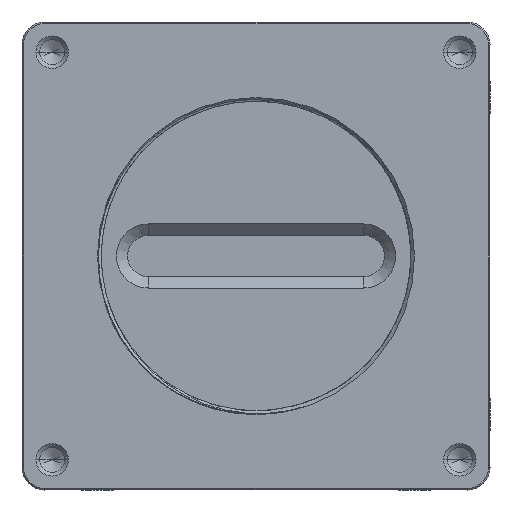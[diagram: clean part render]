
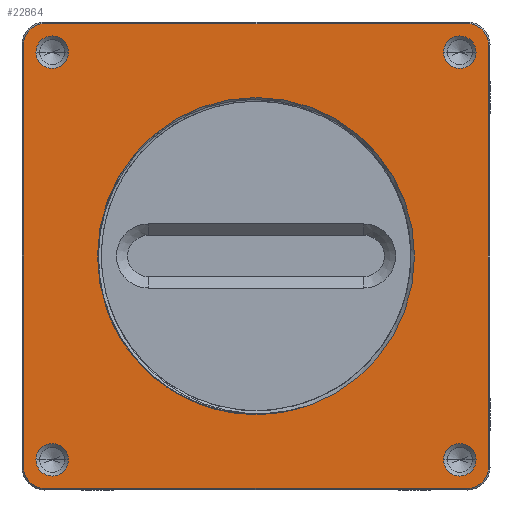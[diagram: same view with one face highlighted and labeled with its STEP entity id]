
A CAD part, front view. The second image highlights one B-rep face of the part: STEP entity #22864.
In plain terms, the highlighted planar face has unit normal (0, -1, 0).
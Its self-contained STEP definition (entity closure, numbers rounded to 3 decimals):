
#263=CARTESIAN_POINT('',(-28.,-35.,28.));
#264=DIRECTION('',(0.,1.,0.));
#265=DIRECTION('',(-1.,0.,0.));
#266=AXIS2_PLACEMENT_3D('',#263,#264,#265);
#271=DIRECTION('',(1.,0.,0.));
#272=VECTOR('',#271,56.);
#273=CARTESIAN_POINT('',(-28.,-35.,30.8));
#274=LINE('',#273,#272);
#278=CARTESIAN_POINT('',(28.,-35.,28.));
#279=DIRECTION('',(0.,1.,0.));
#280=DIRECTION('',(0.,0.,1.));
#281=AXIS2_PLACEMENT_3D('',#278,#279,#280);
#286=DIRECTION('',(0.,0.,-1.));
#287=VECTOR('',#286,56.);
#288=CARTESIAN_POINT('',(30.8,-35.,28.));
#289=LINE('',#288,#287);
#293=CARTESIAN_POINT('',(28.,-35.,-28.));
#294=DIRECTION('',(0.,1.,0.));
#295=DIRECTION('',(1.,0.,0.));
#296=AXIS2_PLACEMENT_3D('',#293,#294,#295);
#301=DIRECTION('',(-1.,0.,0.));
#302=VECTOR('',#301,56.);
#303=CARTESIAN_POINT('',(28.,-35.,-30.8));
#304=LINE('',#303,#302);
#308=CARTESIAN_POINT('',(-28.,-35.,-28.));
#309=DIRECTION('',(0.,1.,0.));
#310=DIRECTION('',(0.,0.,-1.));
#311=AXIS2_PLACEMENT_3D('',#308,#309,#310);
#316=DIRECTION('',(0.,0.,1.));
#317=VECTOR('',#316,56.);
#318=CARTESIAN_POINT('',(-30.8,-35.,
-28.));
#319=LINE('',#318,#317);
#323=CARTESIAN_POINT('',(-27.,-35.,27.));
#324=DIRECTION('',(0.,1.,0.));
#325=DIRECTION('',(-1.,0.,0.));
#326=AXIS2_PLACEMENT_3D('',#323,#324,#325);
#331=CARTESIAN_POINT('',(-27.,-35.,27.));
#332=DIRECTION('',(0.,1.,0.));
#333=DIRECTION('',(1.,0.,0.));
#334=AXIS2_PLACEMENT_3D('',#331,#332,#333);
#339=CARTESIAN_POINT('',(-27.,-35.,-27.));
#340=DIRECTION('',(0.,1.,0.));
#341=DIRECTION('',(1.,0.,0.));
#342=AXIS2_PLACEMENT_3D('',#339,#340,#341);
#347=CARTESIAN_POINT('',(-27.,-35.,-27.));
#348=DIRECTION('',(0.,1.,0.));
#349=DIRECTION('',(-1.,0.,0.));
#350=AXIS2_PLACEMENT_3D('',#347,#348,#349);
#355=CARTESIAN_POINT('',(27.,-35.,-27.));
#356=DIRECTION('',(0.,1.,0.));
#357=DIRECTION('',(1.,0.,0.));
#358=AXIS2_PLACEMENT_3D('',#355,#356,#357);
#363=CARTESIAN_POINT('',(27.,-35.,-27.));
#364=DIRECTION('',(0.,1.,0.));
#365=DIRECTION('',(-1.,0.,0.));
#366=AXIS2_PLACEMENT_3D('',#363,#364,#365);
#371=CARTESIAN_POINT('',(27.,-35.,27.));
#372=DIRECTION('',(0.,1.,0.));
#373=DIRECTION('',(1.,0.,0.));
#374=AXIS2_PLACEMENT_3D('',#371,#372,#373);
#379=CARTESIAN_POINT('',(27.,-35.,27.));
#380=DIRECTION('',(0.,1.,0.));
#381=DIRECTION('',(-1.,0.,0.));
#382=AXIS2_PLACEMENT_3D('',#379,#380,#381);
#387=CARTESIAN_POINT('',(0.,-35.,0.));
#388=DIRECTION('',(0.,1.,0.));
#389=DIRECTION('',(0.,0.,-1.));
#390=AXIS2_PLACEMENT_3D('',#387,#388,#389);
#395=CARTESIAN_POINT('',(0.,-35.,0.));
#396=DIRECTION('',(0.,1.,0.));
#397=DIRECTION('',(0.,0.,1.));
#398=AXIS2_PLACEMENT_3D('',#395,#396,#397);
#19769=CARTESIAN_POINT('',(-29.15,-35.,27.));
#19770=CARTESIAN_POINT('',(-24.85,-35.,27.));
#19771=VERTEX_POINT('',#19769);
#19772=VERTEX_POINT('',#19770);
#19777=CARTESIAN_POINT('',(-24.85,-35.,-27.));
#19778=CARTESIAN_POINT('',(-29.15,-35.,-27.));
#19779=VERTEX_POINT('',#19777);
#19780=VERTEX_POINT('',#19778);
#19785=CARTESIAN_POINT('',(29.15,-35.,-27.));
#19786=CARTESIAN_POINT('',(24.85,-35.,-27.));
#19787=VERTEX_POINT('',#19785);
#19788=VERTEX_POINT('',#19786);
#19793=CARTESIAN_POINT('',(29.15,-35.,27.));
#19794=CARTESIAN_POINT('',(24.85,-35.,27.));
#19795=VERTEX_POINT('',#19793);
#19796=VERTEX_POINT('',#19794);
#20096=CARTESIAN_POINT('',(0.,-35.,-21.));
#20097=CARTESIAN_POINT('',(0.,-35.,21.));
#20098=VERTEX_POINT('',#20096);
#20099=VERTEX_POINT('',#20097);
#20104=CARTESIAN_POINT('',(-30.8,-35.,28.));
#20105=CARTESIAN_POINT('',(-28.,-35.,30.8));
#20106=VERTEX_POINT('',#20104);
#20107=VERTEX_POINT('',#20105);
#20110=CARTESIAN_POINT('',(28.,-35.,
30.8));
#20111=VERTEX_POINT('',#20110);
#20114=CARTESIAN_POINT('',(30.8,-35.,28.));
#20115=VERTEX_POINT('',#20114);
#20118=CARTESIAN_POINT('',(30.8,-35.,
-28.));
#20119=VERTEX_POINT('',#20118);
#20122=CARTESIAN_POINT('',(28.,-35.,-30.8));
#20123=VERTEX_POINT('',#20122);
#20126=CARTESIAN_POINT('',(-28.,-35.,
-30.8));
#20127=VERTEX_POINT('',#20126);
#20130=CARTESIAN_POINT('',(-30.8,-35.,-28.));
#20131=VERTEX_POINT('',#20130);
#22814=CARTESIAN_POINT('',(31.,-35.,31.));
#22815=DIRECTION('',(0.,-1.,0.));
#22816=DIRECTION('',(0.,0.,-1.));
#22817=AXIS2_PLACEMENT_3D('',#22814,#22815,#22816);
#22818=PLANE('',#22817);
#22820=ORIENTED_EDGE('',*,*,#22819,.T.);
#22822=ORIENTED_EDGE('',*,*,#22821,.T.);
#22823=ORIENTED_EDGE('',*,*,#22800,.T.);
#22824=ORIENTED_EDGE('',*,*,#22650,.T.);
#22825=ORIENTED_EDGE('',*,*,#22673,.T.);
#22827=ORIENTED_EDGE('',*,*,#22826,.T.);
#22829=ORIENTED_EDGE('',*,*,#22828,.T.);
#22831=ORIENTED_EDGE('',*,*,#22830,.T.);
#22832=EDGE_LOOP('',(#22820,#22822,#22823,#22824,#22825,#22827,#22829,#22831));
#22833=FACE_OUTER_BOUND('',#22832,.F.);
#22835=ORIENTED_EDGE('',*,*,#22834,.F.);
#22837=ORIENTED_EDGE('',*,*,#22836,.F.);
#22838=EDGE_LOOP('',(#22835,#22837));
#22839=FACE_BOUND('',#22838,.F.);
#22841=ORIENTED_EDGE('',*,*,#22840,.F.);
#22843=ORIENTED_EDGE('',*,*,#22842,.F.);
#22844=EDGE_LOOP('',(#22841,#22843));
#22845=FACE_BOUND('',#22844,.F.);
#22847=ORIENTED_EDGE('',*,*,#22846,.F.);
#22849=ORIENTED_EDGE('',*,*,#22848,.F.);
#22850=EDGE_LOOP('',(#22847,#22849));
#22851=FACE_BOUND('',#22850,.F.);
#22853=ORIENTED_EDGE('',*,*,#22852,.F.);
#22855=ORIENTED_EDGE('',*,*,#22854,.F.);
#22856=EDGE_LOOP('',(#22853,#22855));
#22857=FACE_BOUND('',#22856,.F.);
#22859=ORIENTED_EDGE('',*,*,#22858,.F.);
#22861=ORIENTED_EDGE('',*,*,#22860,.F.);
#22862=EDGE_LOOP('',(#22859,#22861));
#22863=FACE_BOUND('',#22862,.F.);
#22864=ADVANCED_FACE('',(#22833,#22839,#22845,#22851,#22857,#22863),#22818,.T.);
#267=CIRCLE('',#266,2.8);
#282=CIRCLE('',#281,2.8);
#297=CIRCLE('',#296,2.8);
#312=CIRCLE('',#311,2.8);
#327=CIRCLE('',#326,2.15);
#335=CIRCLE('',#334,2.15);
#343=CIRCLE('',#342,2.15);
#351=CIRCLE('',#350,2.15);
#359=CIRCLE('',#358,2.15);
#367=CIRCLE('',#366,2.15);
#375=CIRCLE('',#374,2.15);
#383=CIRCLE('',#382,2.15);
#391=CIRCLE('',#390,21.);
#399=CIRCLE('',#398,21.);
#22650=EDGE_CURVE('',#20115,#20119,#289,.T.);
#22673=EDGE_CURVE('',#20119,#20123,#297,.T.);
#22800=EDGE_CURVE('',#20111,#20115,#282,.T.);
#22819=EDGE_CURVE('',#20106,#20107,#267,.T.);
#22821=EDGE_CURVE('',#20107,#20111,#274,.T.);
#22826=EDGE_CURVE('',#20123,#20127,#304,.T.);
#22828=EDGE_CURVE('',#20127,#20131,#312,.T.);
#22830=EDGE_CURVE('',#20131,#20106,#319,.T.);
#22834=EDGE_CURVE('',#19771,#19772,#327,.T.);
#22836=EDGE_CURVE('',#19772,#19771,#335,.T.);
#22840=EDGE_CURVE('',#19779,#19780,#343,.T.);
#22842=EDGE_CURVE('',#19780,#19779,#351,.T.);
#22846=EDGE_CURVE('',#19787,#19788,#359,.T.);
#22848=EDGE_CURVE('',#19788,#19787,#367,.T.);
#22852=EDGE_CURVE('',#19795,#19796,#375,.T.);
#22854=EDGE_CURVE('',#19796,#19795,#383,.T.);
#22858=EDGE_CURVE('',#20098,#20099,#391,.T.);
#22860=EDGE_CURVE('',#20099,#20098,#399,.T.);
